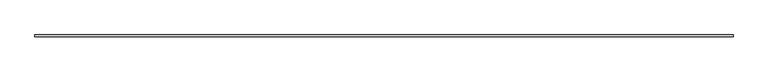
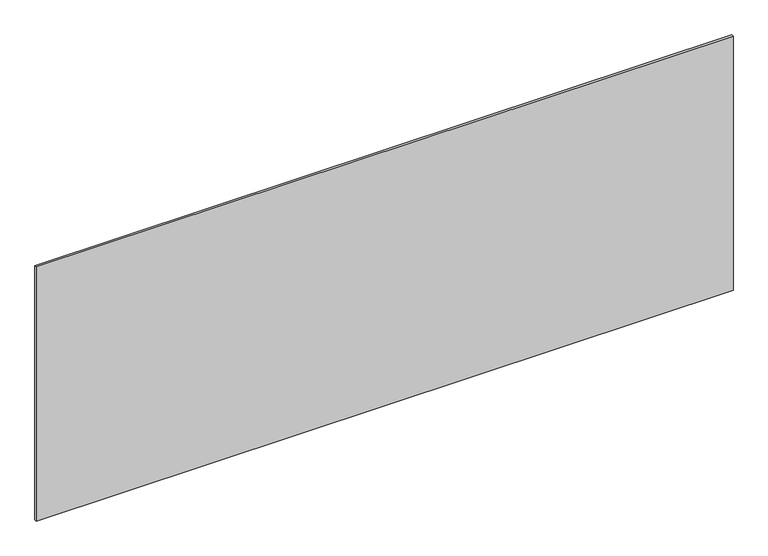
"""IFC4 building model written with IfcOpenShell, lengths in millimetres: plate geometry, システム パネル : 標準."""

from ifc_helpers import new_model, si_unit, origin, origin_with_axes, place, context, project, spatial, polyline, outline, extrude, source, transform, mapped, element, save


def plate_95306383(model_context):
    return source(origin(), model_context, "Body", "SweptSolid", [
        extrude(outline(polyline([(1715.0, -5.0), (-1715.0, -5.0), (-1715.0, 5.0), (1715.0, 5.0), (1715.0, -5.0)])), origin_with_axes(), (0.0, 0.0, 1.0), 1322.2777309),
    ])


if __name__ == "__main__":
    model = new_model("IFC4")
    model_context = context("Model", 3, world=origin())
    ifc_project = project(units=[si_unit("LENGTHUNIT", "METRE", prefix="MILLI")], contexts=[model_context])
    site = spatial("IfcSite", under=ifc_project)
    building = spatial("IfcBuilding", under=site)
    placement = place(None, origin())
    plate_shape = plate_95306383(model_context)
    element("IfcPlate", 1, ObjectType="システム パネル : 標準", at=placement, inside=building, context=model_context, shape_type="MappedRepresentation", body=[
        mapped(plate_shape, transform((0.0, 0.0, 0.0), x_axis=(1.0, 0.0, 0.0), y_axis=(0.0, 1.0, 0.0), z_axis=(0.0, 0.0, 1.0))),
    ])
    save(model, "model.ifc")
